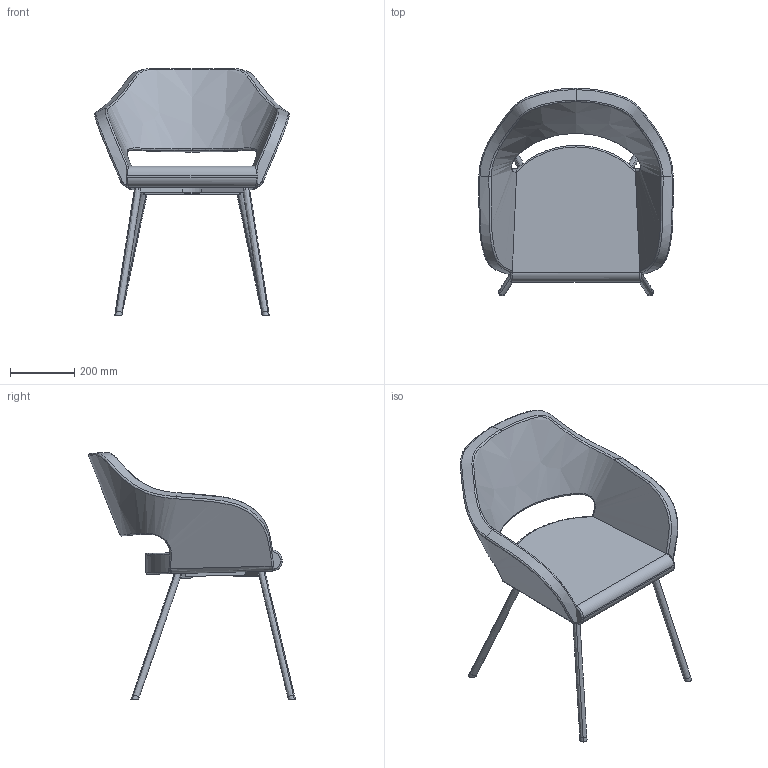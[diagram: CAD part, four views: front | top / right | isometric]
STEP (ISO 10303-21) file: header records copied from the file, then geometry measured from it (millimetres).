
FILE_DESCRIPTION(/* description */ (''),/* implementation_level */ '2;1');
FILE_NAME(/* name */ 'POLO_K~2',/* time_stamp */ '2016-04-13T13:39:51+02:00',/* author */ (''),/* organization */ (''),/* preprocessor_version */ 'ST-DEVELOPER v15',/* originating_system */ '',/* authorisation */ '');
FILE_SCHEMA (('CONFIG_CONTROL_DESIGN'));
Length unit declared in the file: millimetre
Products named in the file (1): Document
Bounding box: 604.9 x 645.49 x 769.62 mm (x, y, z)
Volume: 10398779.5 mm3; surface area: 1299442.2 mm2
Topology: 2 solids, 11 shells, 114 faces, 295 edges, 190 vertices
Faces by surface type: bspline 94, plane 20
Entity records: 6792 total; most frequent: CARTESIAN_POINT 5158, ORIENTED_EDGE 538, EDGE_CURVE 292, VERTEX_POINT 184, ADVANCED_FACE 114, FACE_OUTER_BOUND 114, EDGE_LOOP 114, B_SPLINE_CURVE_WITH_KNOTS 83
